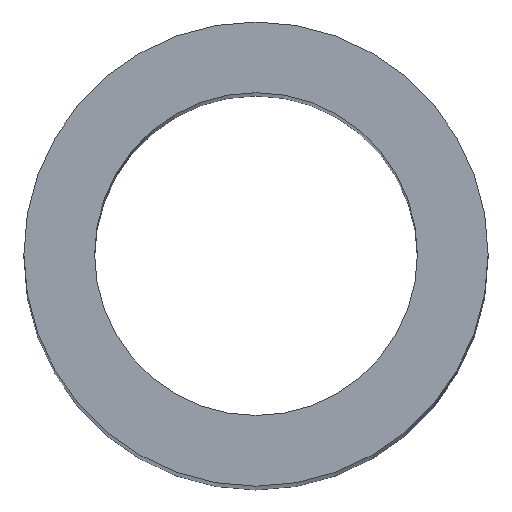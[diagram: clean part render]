
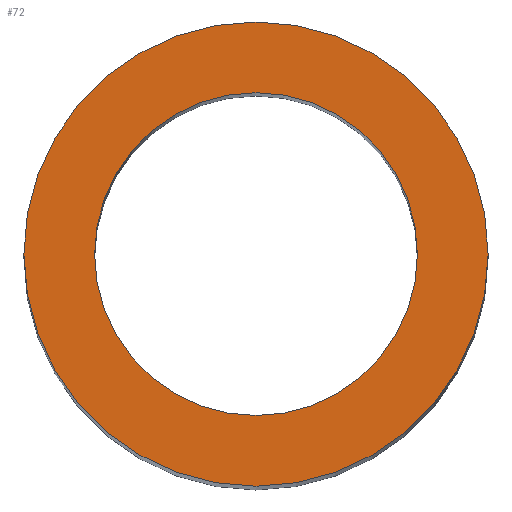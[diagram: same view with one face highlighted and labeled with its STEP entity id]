
A CAD part, top view. The second image highlights one B-rep face of the part: STEP entity #72.
In plain terms, the highlighted planar face has unit normal (0, 0, 1).
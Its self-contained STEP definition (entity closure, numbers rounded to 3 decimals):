
#13 = VERTEX_POINT ( 'NONE', #73 ) ;
#16 = EDGE_CURVE ( 'NONE', #13, #42, #88, .T. ) ;
#18 = VERTEX_POINT ( 'NONE', #82 ) ;
#26 = VERTEX_POINT ( 'NONE', #165 ) ;
#28 = EDGE_CURVE ( 'NONE', #18, #26, #151, .T. ) ;
#42 = VERTEX_POINT ( 'NONE', #328 ) ;
#50 = ORIENTED_EDGE ( 'NONE', *, *, #79, .T. ) ;
#51 = ORIENTED_EDGE ( 'NONE', *, *, #16, .T. ) ;
#52 = EDGE_LOOP ( 'NONE', ( #94, #95 ) ) ;
#72 = ADVANCED_FACE ( 'NONE', ( #197, #196 ), #195, .F. ) ;
#73 = CARTESIAN_POINT ( 'NONE',  ( 0., -7.475, 0. ) ) ;
#79 = EDGE_CURVE ( 'NONE', #42, #13, #260, .T. ) ;
#82 = CARTESIAN_POINT ( 'NONE',  ( 10.75, 0., 0. ) ) ;
#84 = DIRECTION ( 'NONE',  ( 0., 1., 0. ) ) ;
#85 = DIRECTION ( 'NONE',  ( 0., 0., -1. ) ) ;
#86 = CARTESIAN_POINT ( 'NONE',  ( 0., 0., 0. ) ) ;
#87 = AXIS2_PLACEMENT_3D ( 'NONE', #86, #85, #84 ) ;
#88 = CIRCLE ( 'NONE', #87, 7.475 ) ;
#93 = EDGE_CURVE ( 'NONE', #26, #18, #318, .T. ) ;
#94 = ORIENTED_EDGE ( 'NONE', *, *, #28, .T. ) ;
#95 = ORIENTED_EDGE ( 'NONE', *, *, #93, .T. ) ;
#107 = EDGE_LOOP ( 'NONE', ( #50, #51 ) ) ;
#150 = CARTESIAN_POINT ( 'NONE',  ( 0., 0., 0. ) ) ;
#151 = CIRCLE ( 'NONE', #155, 10.75 ) ;
#155 = AXIS2_PLACEMENT_3D ( 'NONE', #150, #158, #157 ) ;
#157 = DIRECTION ( 'NONE',  ( 1., 0., 0. ) ) ;
#158 = DIRECTION ( 'NONE',  ( 0., 0., 1. ) ) ;
#165 = CARTESIAN_POINT ( 'NONE',  ( -10.75, 0., 0. ) ) ;
#190 = DIRECTION ( 'NONE',  ( -1., 0., 0. ) ) ;
#191 = DIRECTION ( 'NONE',  ( 0., 0., -1. ) ) ;
#192 = AXIS2_PLACEMENT_3D ( 'NONE', #194, #191, #190 ) ;
#194 = CARTESIAN_POINT ( 'NONE',  ( 0., 10.75, 0. ) ) ;
#195 = PLANE ( 'NONE',  #192 ) ;
#196 = FACE_OUTER_BOUND ( 'NONE', #52, .T. ) ;
#197 = FACE_BOUND ( 'NONE', #107, .T. ) ;
#251 = DIRECTION ( 'NONE',  ( 0., 1., 0. ) ) ;
#252 = DIRECTION ( 'NONE',  ( 0., 0., -1. ) ) ;
#253 = CARTESIAN_POINT ( 'NONE',  ( 0., 0., 0. ) ) ;
#254 = AXIS2_PLACEMENT_3D ( 'NONE', #253, #252, #251 ) ;
#260 = CIRCLE ( 'NONE', #254, 7.475 ) ;
#314 = DIRECTION ( 'NONE',  ( 1., 0., 0. ) ) ;
#315 = DIRECTION ( 'NONE',  ( 0., 0., 1. ) ) ;
#316 = CARTESIAN_POINT ( 'NONE',  ( 0., 0., 0. ) ) ;
#317 = AXIS2_PLACEMENT_3D ( 'NONE', #316, #315, #314 ) ;
#318 = CIRCLE ( 'NONE', #317, 10.75 ) ;
#328 = CARTESIAN_POINT ( 'NONE',  ( 0., 7.475, 0. ) ) ;
